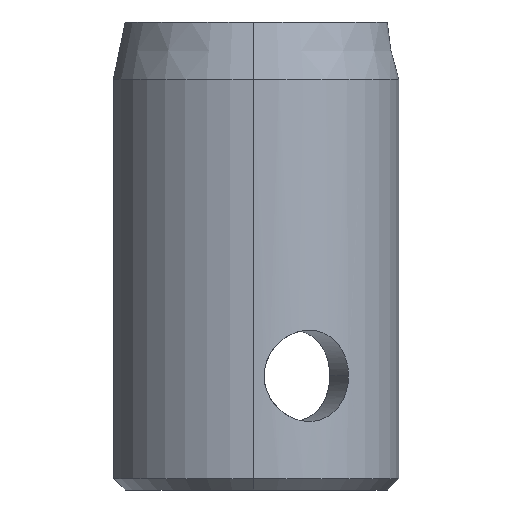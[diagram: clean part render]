
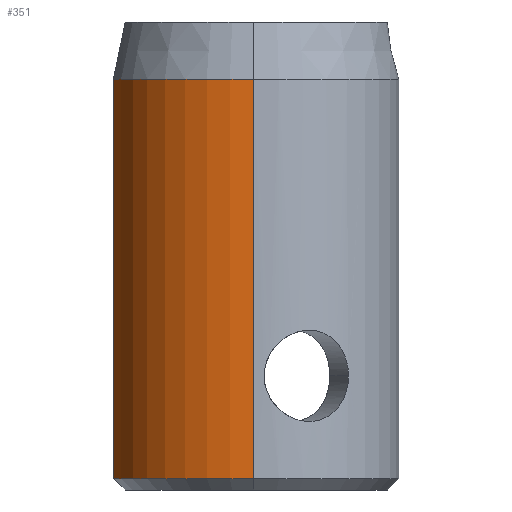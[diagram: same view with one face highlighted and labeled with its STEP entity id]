
A CAD part, left-side view. The second image highlights one B-rep face of the part: STEP entity #351.
In plain terms, the highlighted cylindrical face has radius 12.7 mm (diameter 25.4 mm), a partial arc.
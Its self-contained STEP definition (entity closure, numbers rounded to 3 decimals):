
#36 = CARTESIAN_POINT ( 'NONE',  ( -12.7, 0., 15.5 ) ) ;
#42 = CARTESIAN_POINT ( 'NONE',  ( -12.7, 0., -19.5 ) ) ;
#64 = CARTESIAN_POINT ( 'NONE',  ( -3.175, 12.297, -19.5 ) ) ;
#72 = CARTESIAN_POINT ( 'NONE',  ( -3.175, 12.297, 15.5 ) ) ;
#128 = VERTEX_POINT ( 'NONE', #42 ) ;
#133 = VERTEX_POINT ( 'NONE', #36 ) ;
#150 = VERTEX_POINT ( 'NONE', #72 ) ;
#159 = VERTEX_POINT ( 'NONE', #64 ) ;
#229 = ORIENTED_EDGE ( 'NONE', *, *, #815, .F. ) ;
#230 = ORIENTED_EDGE ( 'NONE', *, *, #801, .T. ) ;
#231 = ORIENTED_EDGE ( 'NONE', *, *, #812, .T. ) ;
#232 = ORIENTED_EDGE ( 'NONE', *, *, #783, .T. ) ;
#286 = CARTESIAN_POINT ( 'NONE',  ( 0., 0., 20.5 ) ) ;
#294 = DIRECTION ( 'NONE',  ( 0., 0., -1. ) ) ;
#298 = DIRECTION ( 'NONE',  ( -1., 0., 0. ) ) ;
#351 = ADVANCED_FACE ( 'NONE', ( #558 ), #752, .T. ) ;
#368 = CIRCLE ( 'NONE', #535, 12.7 ) ;
#373 = CIRCLE ( 'NONE', #529, 12.7 ) ;
#414 = VECTOR ( 'NONE', #1131, 1000. ) ;
#451 = LINE ( 'NONE', #1092, #483 ) ;
#483 = VECTOR ( 'NONE', #1093, 1000. ) ;
#504 = AXIS2_PLACEMENT_3D ( 'NONE', #286, #294, #298 ) ;
#529 = AXIS2_PLACEMENT_3D ( 'NONE', #917, #918, #919 ) ;
#535 = AXIS2_PLACEMENT_3D ( 'NONE', #1053, #1054, #1055 ) ;
#558 = FACE_OUTER_BOUND ( 'NONE', #601, .T. ) ;
#599 = LINE ( 'NONE', #1130, #414 ) ;
#601 = EDGE_LOOP ( 'NONE', ( #229, #230, #231, #232 ) ) ;
#752 = CYLINDRICAL_SURFACE ( 'NONE', #504, 12.7 ) ;
#783 = EDGE_CURVE ( 'NONE', #159, #128, #373, .T. ) ;
#801 = EDGE_CURVE ( 'NONE', #133, #150, #368, .T. ) ;
#812 = EDGE_CURVE ( 'NONE', #150, #159, #451, .T. ) ;
#815 = EDGE_CURVE ( 'NONE', #133, #128, #599, .T. ) ;
#917 = CARTESIAN_POINT ( 'NONE',  ( 0., 0., -19.5 ) ) ;
#918 = DIRECTION ( 'NONE',  ( 0., 0., 1. ) ) ;
#919 = DIRECTION ( 'NONE',  ( 1., 0., 0. ) ) ;
#1053 = CARTESIAN_POINT ( 'NONE',  ( 0., 0., 15.5 ) ) ;
#1054 = DIRECTION ( 'NONE',  ( 0., 0., -1. ) ) ;
#1055 = DIRECTION ( 'NONE',  ( 1., 0., 0. ) ) ;
#1092 = CARTESIAN_POINT ( 'NONE',  ( -3.175, 12.297, 20.5 ) ) ;
#1093 = DIRECTION ( 'NONE',  ( 0., 0., -1. ) ) ;
#1130 = CARTESIAN_POINT ( 'NONE',  ( -12.7, 0., 20.5 ) ) ;
#1131 = DIRECTION ( 'NONE',  ( 0., 0., -1. ) ) ;
